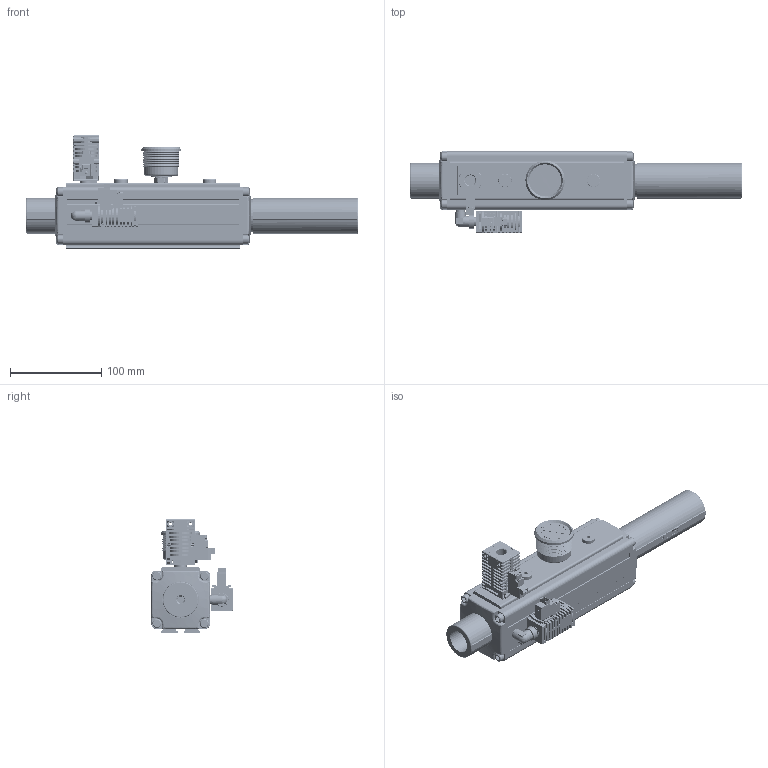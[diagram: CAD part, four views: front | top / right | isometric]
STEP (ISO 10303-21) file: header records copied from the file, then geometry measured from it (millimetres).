
FILE_DESCRIPTION( ( 'Unknown' ), '1' );
FILE_NAME( 'C:/Documents and Settings/Administrator/官帕 拳搁/PM 犁荐沥/PM303X1A-34-A3 R3-CL.stp', 'Unknown', ( 'Unknown' ), ( 'Unknown' ), 'PSStep 10.0', 'Unknown', ' ' );
FILE_SCHEMA( ( 'AUTOMOTIVE_DESIGN { 1 0 10303 214 1 1 1 1 }' ) );
Length unit declared in the file: millimetre
Products named in the file (8): Assem1; 1_0_36; VTS-01_35; Double Tread 18M-18M_35; VMS14_CON_PT14_7; MS18 CON_3_1; Vacuum Gauge_1_1; Elbow_18_double
Bounding box: 363.6 x 89 x 124 mm (x, y, z)
Volume: 1323747.8 mm3; surface area: 529233.7 mm2
Topology: 14 solids, 118 shells, 6228 faces, 16440 edges, 10710 vertices
Faces by surface type: plane 3876, cylinder 1748, cone 304, torus 158, bspline 102, extrusion 30, sphere 6, revolution 4
Full cylindrical faces by diameter (mm): 0.518 x2, 0.6 x2, 0.623 x2, 0.8 x4, 1 x28, 1.158 x2, 1.2 x8, 1.256 x2, 1.265 x2, 1.8 x4, 2.2 x4, 2.5 x12, 3 x8, 3.1 x4, 3.2 x10, 3.4 x16, 4 x4, 4.134 x16, 4.2 x8, 5 x4, 5.1 x2, 5.6 x2, 5.8 x2, 6 x26, 6.2 x2, 6.35 x2, 6.5 x16, 7 x10, 7.2 x4, 8 x4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
Entity records: 123617 total; most frequent: CARTESIAN_POINT 23468, DIRECTION 15366, ORIENTED_EDGE 15244, EDGE_CURVE 7622, VECTOR 5238, LINE 5223, VERTEX_POINT 5161, AXIS2_PLACEMENT_3D 5063
